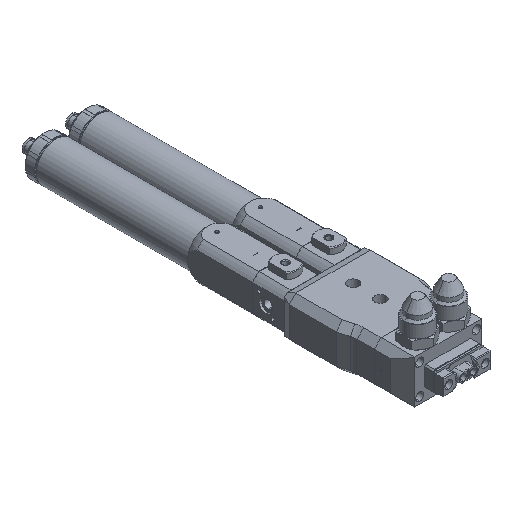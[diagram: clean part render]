
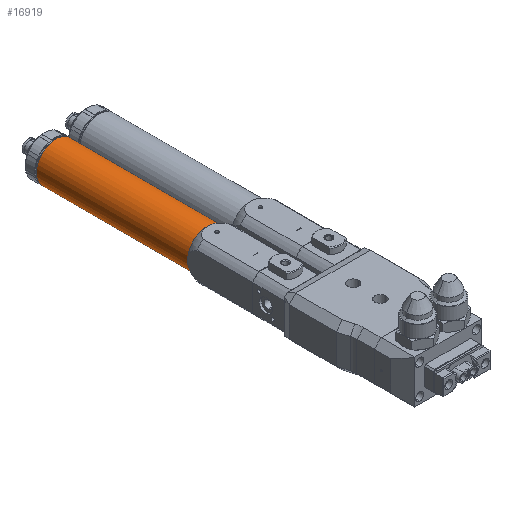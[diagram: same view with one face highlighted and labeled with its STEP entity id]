
A CAD part, isometric view. The second image highlights one B-rep face of the part: STEP entity #16919.
In plain terms, the highlighted cylindrical face has radius 14.5 mm (diameter 29 mm), a full revolution.
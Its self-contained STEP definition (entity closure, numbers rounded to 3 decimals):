
#665 = CARTESIAN_POINT ( 'NONE',  ( -16.989, 23.312, 998.603 ) ) ;
#799 = VERTEX_POINT ( 'NONE', #24368 ) ;
#2155 = ORIENTED_EDGE ( 'NONE', *, *, #4341, .T. ) ;
#2662 = DIRECTION ( 'NONE',  ( 0., 1., 0. ) ) ;
#4341 = EDGE_CURVE ( 'NONE', #35952, #799, #7535, .T. ) ;
#4362 = CARTESIAN_POINT ( 'NONE',  ( -16.989, 27.249, 998.603 ) ) ;
#7058 = DIRECTION ( 'NONE',  ( 0., 1., 0. ) ) ;
#7535 = CIRCLE ( 'NONE', #19789, 14.5 ) ;
#7907 = EDGE_CURVE ( 'NONE', #799, #38518, #11242, .T. ) ;
#7940 = DIRECTION ( 'NONE',  ( 0., 0., -1. ) ) ;
#8447 = ORIENTED_EDGE ( 'NONE', *, *, #27494, .T. ) ;
#8681 = AXIS2_PLACEMENT_3D ( 'NONE', #665, #44206, #7940 ) ;
#8988 = CARTESIAN_POINT ( 'NONE',  ( -2.489, 27.249, 998.603 ) ) ;
#10259 = CARTESIAN_POINT ( 'NONE',  ( -16.989, 27.249, 998.603 ) ) ;
#10938 = EDGE_LOOP ( 'NONE', ( #8447, #35621 ) ) ;
#11242 = CIRCLE ( 'NONE', #25928, 14.5 ) ;
#11558 = FACE_OUTER_BOUND ( 'NONE', #39330, .T. ) ;
#12608 = VERTEX_POINT ( 'NONE', #36949 ) ;
#13621 = DIRECTION ( 'NONE',  ( 0., 0., -1. ) ) ;
#14055 = CARTESIAN_POINT ( 'NONE',  ( -16.989, 27.249, 998.603 ) ) ;
#14590 = EDGE_CURVE ( 'NONE', #38518, #12608, #21461, .T. ) ;
#15216 = CARTESIAN_POINT ( 'NONE',  ( -16.989, 139.049, 1013.103 ) ) ;
#15796 = CARTESIAN_POINT ( 'NONE',  ( -16.989, 139.049, 998.603 ) ) ;
#16839 = CIRCLE ( 'NONE', #18403, 14.5 ) ;
#16919 = ADVANCED_FACE ( 'NONE', ( #11558, #44924 ), #18577, .T. ) ;
#18403 = AXIS2_PLACEMENT_3D ( 'NONE', #4362, #19373, #37494 ) ;
#18577 = CYLINDRICAL_SURFACE ( 'NONE', #8681, 14.5 ) ;
#19082 = CARTESIAN_POINT ( 'NONE',  ( -16.989, 139.049, 984.103 ) ) ;
#19373 = DIRECTION ( 'NONE',  ( 0., 1., 0. ) ) ;
#19789 = AXIS2_PLACEMENT_3D ( 'NONE', #10259, #22082, #21850 ) ;
#20132 = ORIENTED_EDGE ( 'NONE', *, *, #7907, .T. ) ;
#20154 = EDGE_CURVE ( 'NONE', #12608, #35952, #16839, .T. ) ;
#21395 = AXIS2_PLACEMENT_3D ( 'NONE', #15796, #38738, #38047 ) ;
#21461 = CIRCLE ( 'NONE', #34608, 14.5 ) ;
#21850 = DIRECTION ( 'NONE',  ( 0., 0., -1. ) ) ;
#22082 = DIRECTION ( 'NONE',  ( 0., 1., 0. ) ) ;
#22972 = CIRCLE ( 'NONE', #21395, 14.5 ) ;
#24368 = CARTESIAN_POINT ( 'NONE',  ( -16.989, 27.249, 1013.103 ) ) ;
#24434 = ORIENTED_EDGE ( 'NONE', *, *, #14590, .T. ) ;
#25928 = AXIS2_PLACEMENT_3D ( 'NONE', #14055, #7058, #44052 ) ;
#27169 = EDGE_CURVE ( 'NONE', #30498, #38858, #40659, .T. ) ;
#27494 = EDGE_CURVE ( 'NONE', #38858, #30498, #22972, .T. ) ;
#28291 = DIRECTION ( 'NONE',  ( 0., 0., -1. ) ) ;
#30498 = VERTEX_POINT ( 'NONE', #19082 ) ;
#32171 = AXIS2_PLACEMENT_3D ( 'NONE', #47467, #46755, #13621 ) ;
#34608 = AXIS2_PLACEMENT_3D ( 'NONE', #36931, #2662, #28291 ) ;
#35621 = ORIENTED_EDGE ( 'NONE', *, *, #27169, .T. ) ;
#35952 = VERTEX_POINT ( 'NONE', #39175 ) ;
#35954 = ORIENTED_EDGE ( 'NONE', *, *, #20154, .T. ) ;
#36931 = CARTESIAN_POINT ( 'NONE',  ( -16.989, 27.249, 998.603 ) ) ;
#36949 = CARTESIAN_POINT ( 'NONE',  ( -16.989, 27.249, 984.103 ) ) ;
#37494 = DIRECTION ( 'NONE',  ( 0., 0., -1. ) ) ;
#38047 = DIRECTION ( 'NONE',  ( 0., 0., -1. ) ) ;
#38518 = VERTEX_POINT ( 'NONE', #8988 ) ;
#38738 = DIRECTION ( 'NONE',  ( 0., -1., 0. ) ) ;
#38858 = VERTEX_POINT ( 'NONE', #15216 ) ;
#39175 = CARTESIAN_POINT ( 'NONE',  ( -31.489, 27.249, 998.603 ) ) ;
#39330 = EDGE_LOOP ( 'NONE', ( #24434, #35954, #2155, #20132 ) ) ;
#40659 = CIRCLE ( 'NONE', #32171, 14.5 ) ;
#44052 = DIRECTION ( 'NONE',  ( 0., 0., -1. ) ) ;
#44206 = DIRECTION ( 'NONE',  ( 0., -1., 0. ) ) ;
#44924 = FACE_OUTER_BOUND ( 'NONE', #10938, .T. ) ;
#46755 = DIRECTION ( 'NONE',  ( 0., -1., 0. ) ) ;
#47467 = CARTESIAN_POINT ( 'NONE',  ( -16.989, 139.049, 998.603 ) ) ;
